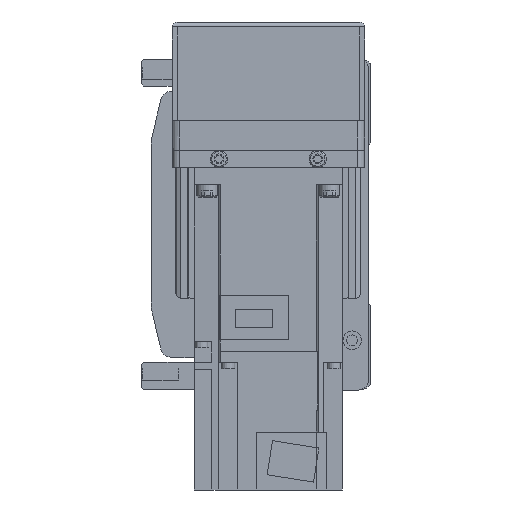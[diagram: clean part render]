
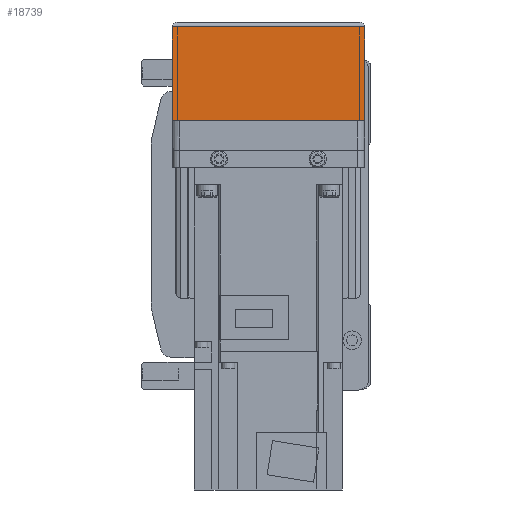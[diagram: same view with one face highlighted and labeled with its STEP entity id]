
A CAD part, left-side view. The second image highlights one B-rep face of the part: STEP entity #18739.
In plain terms, the highlighted planar face has unit normal (-1, 0, 0).
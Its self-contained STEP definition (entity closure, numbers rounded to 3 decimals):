
#2780=ORIENTED_EDGE('',*,*,#7533,.F.);
#2781=ORIENTED_EDGE('',*,*,#7534,.F.);
#2782=ORIENTED_EDGE('',*,*,#7535,.T.);
#2783=ORIENTED_EDGE('',*,*,#7536,.F.);
#7533=EDGE_CURVE('',#10008,#9999,#11945,.T.);
#7534=EDGE_CURVE('',#10025,#10008,#11946,.T.);
#7535=EDGE_CURVE('',#10025,#10026,#11947,.T.);
#7536=EDGE_CURVE('',#9999,#10026,#11948,.T.);
#9999=VERTEX_POINT('',#28744);
#10008=VERTEX_POINT('',#28762);
#10025=VERTEX_POINT('',#28810);
#10026=VERTEX_POINT('',#28812);
#11945=LINE('',#28808,#13625);
#11946=LINE('',#28809,#13626);
#11947=LINE('',#28811,#13627);
#11948=LINE('',#28813,#13628);
#13625=VECTOR('',#23053,1000.);
#13626=VECTOR('',#23054,1000.);
#13627=VECTOR('',#23055,1000.);
#13628=VECTOR('',#23056,1000.);
#15137=EDGE_LOOP('',(#2780,#2781,#2782,#2783));
#16637=FACE_BOUND('',#15137,.T.);
#17978=PLANE('',#20077);
#18739=ADVANCED_FACE('',(#16637),#17978,.F.);
#20077=AXIS2_PLACEMENT_3D('',#28807,#23051,#23052);
#23051=DIRECTION('',(1.,0.,0.));
#23052=DIRECTION('',(0.,0.,-1.));
#23053=DIRECTION('',(0.,-1.,0.));
#23054=DIRECTION('',(0.,0.,1.));
#23055=DIRECTION('',(0.,-1.,0.));
#23056=DIRECTION('',(0.,0.,-1.));
#28744=CARTESIAN_POINT('',(-158.,-39.,-12.1));
#28762=CARTESIAN_POINT('',(-158.,39.,-12.1));
#28807=CARTESIAN_POINT('',(-158.,36.,7.));
#28808=CARTESIAN_POINT('',(-158.,50.,-12.1));
#28809=CARTESIAN_POINT('',(-158.,39.,-50.));
#28810=CARTESIAN_POINT('',(-158.,39.,-50.));
#28811=CARTESIAN_POINT('',(-158.,40.,-50.));
#28812=CARTESIAN_POINT('',(-158.,-39.,-50.));
#28813=CARTESIAN_POINT('',(-158.,-39.,-12.1));
